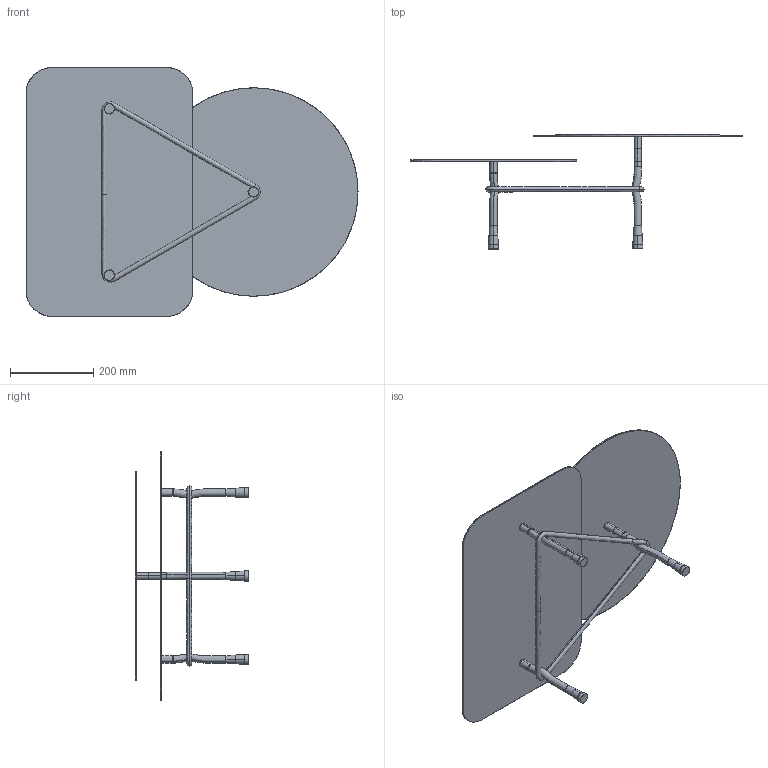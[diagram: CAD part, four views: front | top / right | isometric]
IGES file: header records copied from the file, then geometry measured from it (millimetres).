
Start section: SolidWorks IGES file using NURBS representation for surfaces
Global section: file name: D:\Recover\PRODUCTOS\28-TIERS\04-MODELADOS (PLANOS)\IGES\composicionB.IGS; native system: SolidWorks 2009; preprocessor: SolidWorks 2009; author: RUBEN; date: 110510.095501; units: millimetre
Bounding box: 796.41 x 273 x 598.56 mm (x, y, z)
Surface area: 990430.7 mm2 (no closed solid volume)
Topology: 0 solids, 0 shells, 83 faces, 1785 edges, 1785 vertices
Faces by surface type: bspline 83
